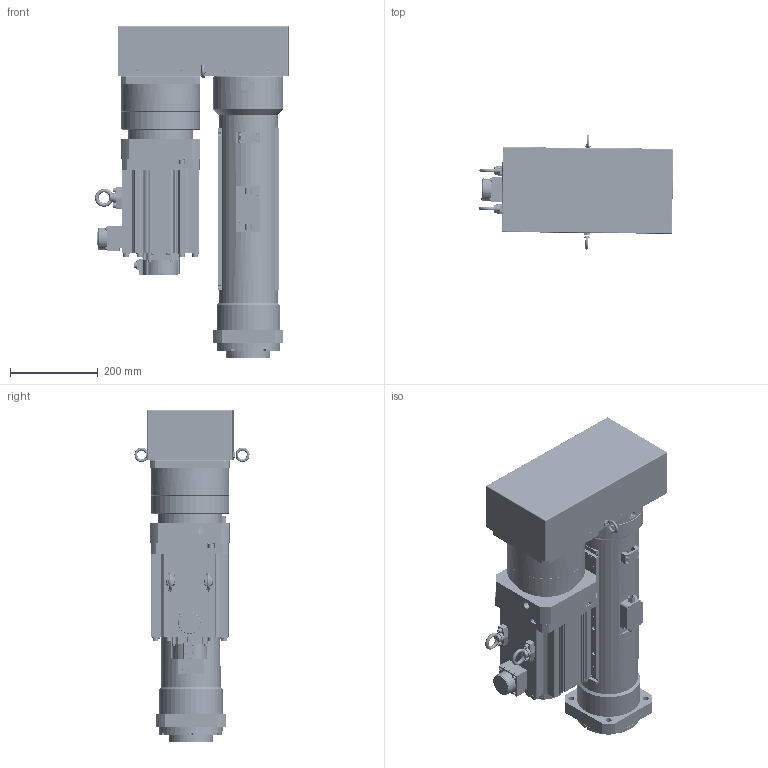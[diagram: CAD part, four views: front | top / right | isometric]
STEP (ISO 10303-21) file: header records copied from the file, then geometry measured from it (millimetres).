
FILE_DESCRIPTION( ('This file contains a STEP AP42 implementation' ,'as created by ZW3D STEP Interface translator.') ,'2;1' );
FILE_NAME( 'OACIS-DC-P080-P100-300-150-A6V200_v20.51.stp' ,'26 429.134331', (''), ('ZWCAD Software Co.'), 'Version 1.0', 'ZW3D to STEP translator', '' );
FILE_SCHEMA(('AUTOMOTIVE_DESIGN { 1 0 10303 214 1 1 1 1 }'));
Length unit declared in the file: millimetre
Products named in the file (1): 0
Bounding box: 443 x 262.74 x 758 mm (x, y, z)
Volume: 21146023.7 mm3; surface area: 2610799 mm2
Topology: 51 solids, 74 shells, 2491 faces, 6271 edges, 4066 vertices
Faces by surface type: cylinder 1035, plane 979, cone 337, torus 110, bspline 18, sphere 12
Full cylindrical faces by diameter (mm): 1.6 x8, 3.3 x94, 4.2 x18, 4.3 x30, 4.5 x8, 5 x4, 5.3 x4, 5.5 x6, 6.647 x2, 6.8 x69, 7 x8, 8 x36, 8.4 x8, 8.5 x1, 9 x19, 9.5 x4, 10 x6, 10.106 x4, 10.2 x8, 11 x4, 13 x12, 13.083 x1, 13.5 x4, 14 x23, 14.8 x1, 15 x8, 16 x10, 16.5 x2, 17.294 x1, 18 x5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
Entity records: 85708 total; most frequent: CARTESIAN_POINT 20224, DIRECTION 13484, ORIENTED_EDGE 12292, EDGE_CURVE 6169, AXIS2_PLACEMENT_3D 5168, VERTEX_POINT 4063, VECTOR 3148, LINE 3148
